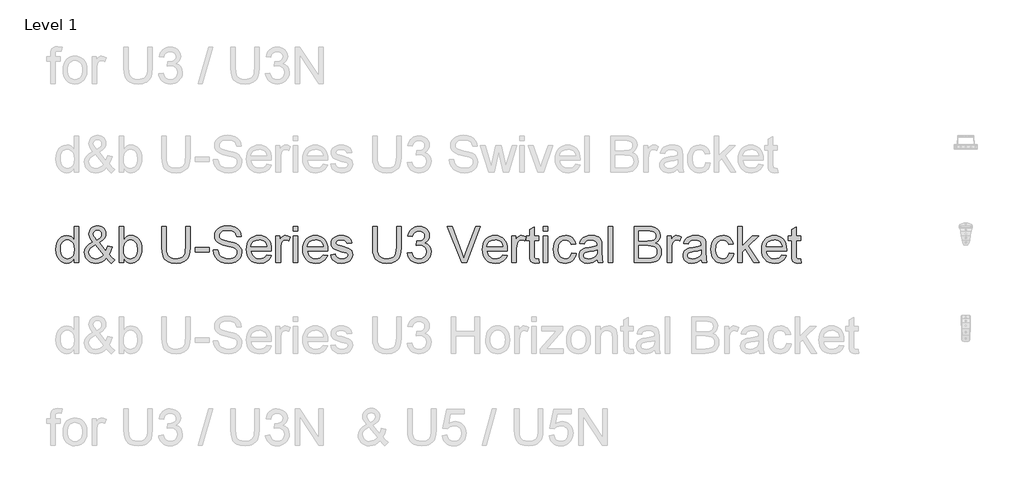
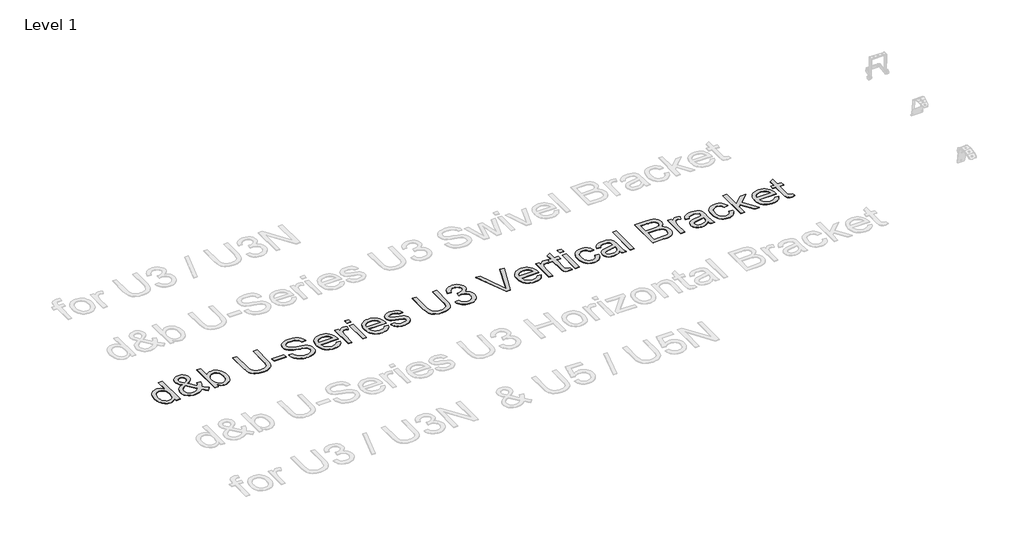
# One storey, part 15 of 29: 1 proxy.
"""IFC4 building model written with IfcOpenShell, lengths in millimetres."""

from ifc_helpers import new_model, si_unit, origin, origin_with_axes, place, context, project, spatial, polyline, outline, extrude, element, save

model = new_model("IFC4")

# Units and contexts
model_context = context("Model", 3, world=origin())
ifc_project = project(units=[si_unit("LENGTHUNIT", "METRE", prefix="MILLI")], contexts=[model_context])

# Site, building, storey
site = spatial("IfcSite", under=ifc_project)
building = spatial("IfcBuilding", under=site)
storey = spatial("IfcBuildingStorey", under=building, Name="Level 1", Elevation=0.0)

# Proxy
placement = place(None, origin())
element("IfcBuildingElementProxy", 1, Name="400mm Arial", ObjectType="400mm Arial", at=placement, inside=storey, context=model_context, shape_type="SweptSolid", body=[
    extrude(outline(polyline([(-20788.4119982, 3164.3636615), (-20788.4119982, 3211.7468625), (-20803.4399777, 3188.2698598), (-20821.6440051, 3171.5005722), (-20843.0240804, 3161.4389996), (-20867.5802036, 3158.0851421), (-20900.051921, 3162.9411844), (-20929.7767862, 3177.5093115), (-20954.9399147, 3200.7717163), (-20973.7264219, 3231.7105921), (-20985.4250694, 3269.0751401), (-20989.3246185, 3311.6145614), (-20985.7316377, 3353.6266853), (-20974.9526952, 3391.5675817), (-20957.0000539, 3423.2790097), (-20931.8859763, 3446.6027282), (-20901.5111863, 3460.950126), (-20867.7764073, 3465.7325919), (-20843.20189, 3462.3112894), (-20821.4723268, 3452.0473817), (-20803.0537016, 3436.3142951), (-20788.4119982, 3416.4854555), (-20788.4119982, 3566.1889021), (-20738.1838431, 3566.1889021), (-20738.1838431, 3164.3636615), (-20788.4119982, 3164.3636615)]), holes=[polyline([(-20939.0964634, 3311.8107652), (-20937.6801177, 3287.4539114), (-20933.4310807, 3266.3773388), (-20926.3493523, 3248.5810472), (-20916.4349325, 3234.0650368), (-20891.7377879, 3214.7512321), (-20877.8625053, 3209.9227809), (-20862.9694159, 3208.3132972), (-20848.0058157, 3209.8492045), (-20834.2133066, 3214.4569265), (-20810.1415614, 3232.8878145), (-20800.6348775, 3246.7968196), (-20793.844389, 3263.9493176), (-20788.4119982, 3307.9847924), (-20793.9424909, 3356.1282828), (-20800.8556067, 3374.663404), (-20810.5339688, 3389.5074425), (-20822.235682, 3400.8811276), (-20835.2188507, 3409.0051883), (-20849.4834751, 3413.8796247), (-20865.0295551, 3415.5044369), (-20880.2169501, 3413.9440041), (-20894.0922327, 3409.2627057), (-20906.6554028, 3401.4605417), (-20917.9064605, 3390.5375121), (-20927.1770868, 3376.2544937), (-20933.7989627, 3358.372363), (-20939.0964634, 3311.8107652)])]), origin_with_axes(), (0.0, 0.0, 1.0), 5.0),
    extrude(outline(polyline([(-20432.4003287, 3214.0032054), (-20457.9313392, 3189.5390527), (-20485.6696416, 3172.0646579), (-20515.664287, 3161.5800211), (-20547.9643262, 3158.0851421), (-20577.2722584, 3160.6725788), (-20603.3918801, 3168.4348889), (-20626.3231911, 3181.3720724), (-20646.0661915, 3199.4841293), (-20658.8991418, 3216.8542908), (-20668.0655348, 3235.2177338), (-20673.5653707, 3254.5744581), (-20675.3986493, 3274.9244638), (-20669.5002746, 3310.118508), (-20651.8051507, 3341.7318341), (-20622.3868538, 3369.7399167), (-20581.3189604, 3394.1182302), (-20603.2324646, 3422.4696693), (-20616.3903773, 3444.9349965), (-20622.975465, 3464.1139112), (-20625.1704942, 3482.6061128), (-20623.4414488, 3500.1602153), (-20618.2543127, 3516.5248327), (-20609.6090858, 3531.699965), (-20597.5057682, 3545.6856122), (-20582.784357, 3557.4026538), (-20566.2848495, 3565.7719692), (-20548.0072457, 3570.7935584), (-20527.9515456, 3572.4674215), (-20508.8032878, 3570.8671348), (-20491.4821772, 3566.0662748), (-20475.9882138, 3558.0648414), (-20462.3213977, 3546.8628346), (-20451.1623105, 3533.4167477), (-20443.1915339, 3518.6830738), (-20438.409068, 3502.6618129), (-20436.8149127, 3485.352965), (-20441.5360649, 3457.3694079), (-20455.6995218, 3431.4950409), (-20479.3052831, 3407.729864), (-20512.353349, 3386.0738773), (-20439.6598668, 3295.5258555), (-20427.2745063, 3321.4002225), (-20417.9793545, 3351.1496132), (-20367.7511994, 3340.2603061), (-20383.2022432, 3293.7354965), (-20403.2640747, 3257.5604336), (-20374.7164319, 3224.2548503), (-20342.6371219, 3196.7372771), (-20380.3082382, 3158.0851421), (-20405.9373505, 3181.5314879), (-20432.4003287, 3214.0032054)]), holes=[polyline([(-20537.7617322, 3417.7607798), (-20511.4949577, 3434.4258341), (-20496.4608468, 3448.908122), (-20489.3975125, 3462.9980024), (-20487.0430678, 3478.4858344), (-20490.1455392, 3496.0338056), (-20499.4529537, 3510.0255842), (-20513.4202068, 3519.1858458), (-20530.5021941, 3522.2392664), (-20547.9520634, 3519.2103713), (-20562.2381476, 3510.123686), (-20571.7662912, 3496.6714677), (-20574.9423391, 3480.5459736), (-20570.6258571, 3462.1518739), (-20557.578309, 3441.6976349), (-20537.7617322, 3417.7607798)]), polyline([(-20466.0492686, 3250.2027937), (-20555.7143735, 3362.1370221), (-20589.9641873, 3340.2848316), (-20610.8966728, 3320.0513218), (-20621.6020389, 3300.7252544), (-20625.1704942, 3281.5953906), (-20620.2899264, 3257.9037901), (-20605.648223, 3233.3292729), (-20594.8692805, 3222.3847835), (-20582.0547244, 3214.5672911), (-20567.2045545, 3209.8767957), (-20550.3187709, 3208.3132972), (-20527.5959264, 3211.2318277), (-20504.1618433, 3219.9874192), (-20482.7388484, 3233.3783238), (-20466.0492686, 3250.2027937)])]), origin_with_axes(), (0.0, 0.0, 1.0), 5.0),
    extrude(outline(polyline([(-20242.1808118, 3164.3636615), (-20292.4089668, 3164.3636615), (-20292.4089668, 3566.1889021), (-20242.1808118, 3566.1889021), (-20242.1808118, 3417.1721686), (-20225.6629102, 3438.4173538), (-20207.011293, 3453.5924861), (-20186.2259603, 3462.6975655), (-20163.306912, 3465.7325919), (-20137.432545, 3462.9980024), (-20112.9806551, 3454.7942339), (-20091.3491937, 3441.6363213), (-20073.9361126, 3424.0392992), (-20060.2876906, 3402.1748459), (-20049.9502065, 3376.2146398), (-20043.4386952, 3347.2378013), (-20041.2681915, 3316.323451), (-20043.5153373, 3280.6511602), (-20050.2567749, 3249.270826), (-20061.4925041, 3222.1824484), (-20077.2225251, 3199.3860274), (-20096.1040685, 3181.3168901), (-20116.7943651, 3168.4103634), (-20139.2934148, 3160.6664474), (-20163.6012176, 3158.0851421), (-20187.274424, 3161.4144742), (-20208.2620918, 3171.4024703), (-20226.5642211, 3188.0491306), (-20242.1808118, 3211.354455), (-20242.1808118, 3164.3636615)]), holes=[polyline([(-20242.1808118, 3313.9690062), (-20238.7472465, 3272.0795097), (-20228.4465506, 3243.7280706), (-20216.2757879, 3228.2341072), (-20202.1307252, 3217.1669905), (-20186.0113625, 3210.5267205), (-20167.9176997, 3208.3132972), (-20152.8958515, 3209.9442407), (-20138.9285984, 3214.8370712), (-20126.0159404, 3222.9917888), (-20114.1578774, 3234.4083934), (-20104.2434577, 3249.0562281), (-20097.1617293, 3266.9046363), (-20092.9126922, 3287.9536178), (-20091.4963465, 3312.2031726), (-20096.9287373, 3358.1638965), (-20103.7192258, 3375.9571224), (-20113.2259097, 3390.2922575), (-20124.6578427, 3401.322586), (-20137.2240785, 3409.201392), (-20150.9246172, 3413.9286757), (-20165.7594586, 3415.5044369), (-20180.7813068, 3413.8734934), (-20194.7485599, 3408.9806628), (-20207.6612179, 3400.8259453), (-20219.5192809, 3389.4093407), (-20229.4337006, 3374.9086587), (-20236.515429, 3357.501709), (-20240.7644661, 3337.1884915), (-20242.1808118, 3313.9690062)])]), origin_with_axes(), (0.0, 0.0, 1.0), 5.0),
    extrude(outline(polyline([(-19557.8221989, 3566.1889021), (-19507.5940438, 3566.1889021), (-19507.5940438, 3334.3741942), (-19511.0030836, 3280.0870744), (-19521.2302031, 3238.2834171), (-19529.4155775, 3221.3301884), (-19540.3355414, 3206.0324288), (-19570.3792376, 3180.4033165), (-19589.5213641, 3170.6391152), (-19611.4348683, 3163.6646857), (-19663.5760097, 3158.0851421), (-19714.576717, 3162.9411844), (-19755.3503048, 3177.5093115), (-19771.9049946, 3188.3097137), (-19785.9090359, 3201.2867511), (-19797.3624287, 3216.4404236), (-19806.2651729, 3233.7707312), (-19817.706303, 3277.3402222), (-19821.520013, 3334.3741942), (-19821.520013, 3566.1889021), (-19771.2918579, 3566.1889021), (-19771.2918579, 3336.1400278), (-19768.8147858, 3291.000907), (-19761.3835695, 3259.5715218), (-19747.9190885, 3237.8051705), (-19727.3422222, 3221.6551509), (-19700.5113621, 3211.6487606), (-19668.2848993, 3208.3132972), (-19640.6017791, 3209.9626348), (-19617.1983529, 3214.9106476), (-19598.0746205, 3223.1573357), (-19583.230582, 3234.702699), (-19572.1144144, 3250.9385577), (-19564.1742947, 3273.2567321), (-19559.4102228, 3301.6572221), (-19557.8221989, 3336.1400278), (-19557.8221989, 3566.1889021)])), origin_with_axes(), (0.0, 0.0, 1.0), 5.0),
    extrude(outline(polyline([(-19451.0873693, 3283.6555298), (-19451.0873693, 3333.8836849), (-19294.1243847, 3333.8836849), (-19294.1243847, 3283.6555298), (-19451.0873693, 3283.6555298)])), origin_with_axes(), (0.0, 0.0, 1.0), 5.0),
    extrude(outline(polyline([(-19250.174749, 3302.4910879), (-19199.946594, 3302.4910879), (-19194.1831094, 3274.6178954), (-19183.7597862, 3252.2138819), (-19167.499402, 3234.4329188), (-19144.2247344, 3220.4288776), (-19115.7751935, 3211.3421923), (-19083.9901891, 3208.3132972), (-19056.006632, 3210.6064283), (-19031.5056911, 3217.4858216), (-19011.6523261, 3228.3751287), (-18997.6114966, 3242.698001), (-18989.2605753, 3259.1423262), (-18986.4769349, 3276.3959918), (-18988.5615995, 3293.2081989), (-18994.8155934, 3307.7395377), (-19007.519785, 3320.137161), (-19028.9550426, 3330.5482214), (-19102.0899832, 3349.7271361), (-19150.0985836, 3362.419065), (-19180.8167302, 3374.4978571), (-19205.8204431, 3391.3959034), (-19223.5400926, 3411.8746678), (-19234.0983058, 3435.4926919), (-19237.6177103, 3461.8085173), (-19233.26444, 3491.2268142), (-19220.2046292, 3518.6585483), (-19198.7816343, 3541.9086904), (-19169.338812, 3558.7822113), (-19133.997615, 3569.0461189), (-19094.8794961, 3572.4674215), (-19052.4994903, 3568.8867034), (-19015.4169852, 3558.1445491), (-18984.956356, 3540.4616879), (-18962.4419779, 3516.0588489), (-18948.1926819, 3486.456611), (-18942.5272992, 3453.1755532), (-18992.7554543, 3453.1755532), (-19001.9770296, 3483.145673), (-19010.3402136, 3495.003736), (-19021.2049952, 3504.7771344), (-19051.2486915, 3517.8737334), (-19092.9174588, 3522.2392664), (-19135.5672448, 3517.9227843), (-19151.8705486, 3512.5271817), (-19164.8261262, 3504.9733381), (-19181.7486979, 3485.9170507), (-19187.3895552, 3463.2800453), (-19183.3919042, 3443.9785033), (-19171.3989511, 3428.4538831), (-19143.047512, 3414.5724691), (-19089.3857917, 3400.3967496), (-19034.0072887, 3386.9322686), (-19000.5055016, 3375.1845702), (-18971.8720197, 3356.9621487), (-18951.8960273, 3334.4722961), (-18940.1605917, 3307.9602669), (-18936.2487798, 3277.671316), (-18940.7492029, 3246.7079147), (-18954.2504721, 3217.5839235), (-18976.2007645, 3192.5188969), (-19006.048257, 3173.7323896), (-19041.941277, 3161.996954), (-19082.0281518, 3158.0851421), (-19131.2385, 3162.3035223), (-19171.7423077, 3174.958663), (-19204.0055586, 3196.0996149), (-19228.4942368, 3225.7754292), (-19244.2150607, 3261.9259666), (-19250.174749, 3302.4910879)])), origin_with_axes(), (0.0, 0.0, 1.0), 5.0),
    extrude(outline(polyline([(-18660.5825381, 3252.2629329), (-18611.3354017, 3245.9844135), (-18618.8861796, 3226.2598072), (-18629.0795766, 3208.8773829), (-18641.9155925, 3193.8371407), (-18657.3942275, 3181.1390805), (-18675.3560659, 3171.0529824), (-18695.6416922, 3163.8486267), (-18743.1843087, 3158.0851421), (-18774.3500451, 3160.5714113), (-18802.1190044, 3168.0302187), (-18826.4911866, 3180.4615645), (-18847.4665916, 3197.8654485), (-18864.3339811, 3219.7574929), (-18876.3821165, 3245.6533197), (-18883.6109977, 3275.5529288), (-18886.0206247, 3309.4563204), (-18883.5864722, 3344.5093432), (-18876.2840146, 3375.4052994), (-18864.1132519, 3402.1441891), (-18847.0741842, 3424.7260122), (-18826.1539614, 3442.6663908), (-18802.3397336, 3455.480947), (-18775.6315007, 3463.1696807), (-18746.0292628, 3465.7325919), (-18717.3804525, 3463.1758121), (-18691.472363, 3455.5054725), (-18668.3049943, 3442.7215731), (-18647.8783465, 3424.8241141), (-18631.2040951, 3402.2913419), (-18619.2939155, 3375.6015031), (-18612.1478077, 3344.7545978), (-18609.7657718, 3309.750626), (-18610.0600774, 3296.2125686), (-18835.7924697, 3296.2125686), (-18832.8831362, 3276.1691312), (-18827.0981918, 3258.6150287), (-18818.4376365, 3243.550261), (-18806.9014703, 3230.9748281), (-18793.1273553, 3221.0604083), (-18777.7529536, 3213.9786799), (-18742.2032901, 3208.3132972), (-18715.4705318, 3210.9375221), (-18692.9561537, 3218.8101968), (-18674.6601558, 3232.4218306), (-18660.5825381, 3252.2629329)]), holes=[polyline([(-18835.7924697, 3346.4407236), (-18659.9939269, 3346.4407236), (-18666.7874811, 3372.9772782), (-18680.1048093, 3391.9599892), (-18693.8022823, 3402.260685), (-18709.3882161, 3409.6183249), (-18726.8626109, 3414.0329089), (-18746.2254666, 3415.5044369), (-18780.0828729, 3410.8078101), (-18808.0786927, 3396.7179296), (-18827.5396502, 3374.7553745), (-18835.7924697, 3346.4407236)])]), origin_with_axes(), (0.0, 0.0, 1.0), 5.0),
    extrude(outline(polyline([(-18559.5376168, 3164.3636615), (-18559.5376168, 3459.4540726), (-18515.5879811, 3459.4540726), (-18515.5879811, 3415.7987425), (-18499.3521223, 3441.1090237), (-18484.3915879, 3456.0205073), (-18469.3820025, 3463.3045708), (-18452.998991, 3465.7325919), (-18427.9830153, 3461.8575683), (-18402.5746321, 3450.2324972), (-18419.3500511, 3405.203741), (-18437.0083869, 3412.9292629), (-18454.6667227, 3415.5044369), (-18469.6640453, 3413.0273648), (-18483.0672127, 3405.5961485), (-18493.8952061, 3393.7748737), (-18501.1670069, 3378.1276262), (-18507.273848, 3350.0704927), (-18509.3094617, 3319.4627107), (-18509.3094617, 3164.3636615), (-18559.5376168, 3164.3636615)])), origin_with_axes(), (0.0, 0.0, 1.0), 5.0),
    extrude(outline(polyline([(-18371.1820352, 3515.960747), (-18371.1820352, 3566.1889021), (-18320.9538802, 3566.1889021), (-18320.9538802, 3515.960747), (-18371.1820352, 3515.960747)])), origin_with_axes(), (0.0, 0.0, 1.0), 5.0),
    extrude(outline(polyline([(-18371.1820352, 3164.3636615), (-18371.1820352, 3459.4540726), (-18320.9538802, 3459.4540726), (-18320.9538802, 3164.3636615), (-18371.1820352, 3164.3636615)])), origin_with_axes(), (0.0, 0.0, 1.0), 5.0),
    extrude(outline(polyline([(-18039.009119, 3252.2629329), (-17989.7619826, 3245.9844135), (-17997.3127606, 3226.2598072), (-18007.5061575, 3208.8773829), (-18020.3421735, 3193.8371407), (-18035.8208084, 3181.1390805), (-18053.7826468, 3171.0529824), (-18074.0682732, 3163.8486267), (-18121.6108897, 3158.0851421), (-18152.7766261, 3160.5714113), (-18180.5455853, 3168.0302187), (-18204.9177675, 3180.4615645), (-18225.8931726, 3197.8654485), (-18242.7605621, 3219.7574929), (-18254.8086974, 3245.6533197), (-18262.0375786, 3275.5529288), (-18264.4472057, 3309.4563204), (-18262.0130532, 3344.5093432), (-18254.7105956, 3375.4052994), (-18242.5398329, 3402.1441891), (-18225.5007651, 3424.7260122), (-18204.5805423, 3442.6663908), (-18180.7663145, 3455.480947), (-18154.0580817, 3463.1696807), (-18124.4558438, 3465.7325919), (-18095.8070334, 3463.1758121), (-18069.8989439, 3455.5054725), (-18046.7315753, 3442.7215731), (-18026.3049275, 3424.8241141), (-18009.630676, 3402.2913419), (-17997.7204965, 3375.6015031), (-17990.5743887, 3344.7545978), (-17988.1923528, 3309.750626), (-17988.4866584, 3296.2125686), (-18214.2190506, 3296.2125686), (-18211.3097172, 3276.1691312), (-18205.5247728, 3258.6150287), (-18196.8642175, 3243.550261), (-18185.3280513, 3230.9748281), (-18171.5539362, 3221.0604083), (-18156.1795345, 3213.9786799), (-18120.629871, 3208.3132972), (-18093.8971127, 3210.9375221), (-18071.3827346, 3218.8101968), (-18053.0867367, 3232.4218306), (-18039.009119, 3252.2629329)]), holes=[polyline([(-18214.2190506, 3346.4407236), (-18038.4205079, 3346.4407236), (-18045.214062, 3372.9772782), (-18058.5313903, 3391.9599892), (-18072.2288632, 3402.260685), (-18087.8147971, 3409.6183249), (-18105.2891918, 3414.0329089), (-18124.6520475, 3415.5044369), (-18158.5094538, 3410.8078101), (-18186.5052736, 3396.7179296), (-18205.9662312, 3374.7553745), (-18214.2190506, 3346.4407236)])]), origin_with_axes(), (0.0, 0.0, 1.0), 5.0),
    extrude(outline(polyline([(-17956.7997559, 3252.2629329), (-17906.5716008, 3258.5414523), (-17898.6498752, 3237.0571437), (-17883.3214587, 3221.2627434), (-17860.4882495, 3211.5506587), (-17830.0521458, 3208.3132972), (-17799.983924, 3211.2808786), (-17778.8429721, 3220.1836229), (-17766.3349842, 3233.0840182), (-17762.1656549, 3248.0445527), (-17766.3595097, 3260.8468461), (-17778.9410739, 3270.6079817), (-17830.640757, 3284.930854), (-17906.2772952, 3309.5053713), (-17925.4194217, 3321.8539436), (-17939.2885729, 3338.2001669), (-17947.7130706, 3357.501709), (-17950.5212365, 3378.7162373), (-17948.2648936, 3398.1771949), (-17941.4958649, 3416.142099), (-17930.827287, 3431.8997111), (-17916.8722966, 3444.7387927), (-17884.9401395, 3459.6012254), (-17864.0567049, 3464.1997503), (-17841.7262678, 3465.7325919), (-17809.0338211, 3463.2677826), (-17780.6088056, 3455.8733545), (-17757.751071, 3444.2728089), (-17741.7604669, 3429.1896471), (-17731.1654655, 3409.5079603), (-17724.4945386, 3384.1118399), (-17774.7226937, 3377.8333206), (-17781.0625268, 3393.6399836), (-17793.6073028, 3405.5470975), (-17812.4796492, 3413.015102), (-17837.8021932, 3415.5044369), (-17866.6441416, 3413.1254666), (-17885.8721072, 3405.9885559), (-17896.6878378, 3395.6878601), (-17900.2930814, 3383.8175343), (-17894.3088676, 3369.2003564), (-17875.5714113, 3358.1148456), (-17832.3084887, 3347.4217423), (-17758.5849369, 3323.7791927), (-17739.1117166, 3312.4729527), (-17724.3473858, 3296.9973835), (-17715.0399714, 3277.303434), (-17711.9374999, 3253.3420534), (-17715.5795316, 3228.5713324), (-17726.5056269, 3205.2721394), (-17744.2988527, 3185.2716215), (-17768.5422762, 3170.3969262), (-17797.825683, 3161.1630881), (-17830.7388588, 3158.0851421), (-17857.7720541, 3159.5689328), (-17881.3839468, 3164.020305), (-17901.574537, 3171.4392585), (-17918.3438246, 3181.8257935), (-17932.0412976, 3195.130859), (-17943.0164438, 3211.3054041), (-17951.2692632, 3230.3494287), (-17956.7997559, 3252.2629329)])), origin_with_axes(), (0.0, 0.0, 1.0), 5.0),
    extrude(outline(polyline([(-17228.4915073, 3566.1889021), (-17178.2633522, 3566.1889021), (-17178.2633522, 3334.3741942), (-17181.672392, 3280.0870744), (-17191.8995115, 3238.2834171), (-17200.0848859, 3221.3301884), (-17211.0048498, 3206.0324288), (-17241.048546, 3180.4033165), (-17260.1906725, 3170.6391152), (-17282.1041767, 3163.6646857), (-17334.2453182, 3158.0851421), (-17385.2460254, 3162.9411844), (-17426.0196132, 3177.5093115), (-17442.574303, 3188.3097137), (-17456.5783443, 3201.2867511), (-17468.0317371, 3216.4404236), (-17476.9344814, 3233.7707312), (-17488.3756114, 3277.3402222), (-17492.1893214, 3334.3741942), (-17492.1893214, 3566.1889021), (-17441.9611663, 3566.1889021), (-17441.9611663, 3336.1400278), (-17439.4840942, 3291.000907), (-17432.0528779, 3259.5715218), (-17418.5883969, 3237.8051705), (-17398.0115307, 3221.6551509), (-17371.1806705, 3211.6487606), (-17338.9542077, 3208.3132972), (-17311.2710876, 3209.9626348), (-17287.8676613, 3214.9106476), (-17268.7439289, 3223.1573357), (-17253.8998904, 3234.702699), (-17242.7837228, 3250.9385577), (-17234.8436031, 3273.2567321), (-17230.0795312, 3301.6572221), (-17228.4915073, 3336.1400278), (-17228.4915073, 3566.1889021)])), origin_with_axes(), (0.0, 0.0, 1.0), 5.0),
    extrude(outline(polyline([(-17109.199639, 3271.098491), (-17058.9714839, 3277.3770104), (-17047.7265576, 3245.8127352), (-17031.2577069, 3224.500105), (-17008.7555916, 3212.3599991), (-16979.4108711, 3208.3132972), (-16944.9771163, 3213.880578), (-16930.7032949, 3220.8396791), (-16918.3915108, 3230.5824206), (-16901.3953626, 3255.5002944), (-16895.7299799, 3285.715669), (-16901.3463117, 3314.3982019), (-16918.1953071, 3337.6606067), (-16943.7017921, 3353.0748623), (-16975.2905927, 3358.2129475), (-17010.5091624, 3352.719243), (-17004.9173561, 3402.9473981), (-16996.8730031, 3402.3587869), (-16966.7802559, 3405.9640305), (-16939.8758193, 3416.7797611), (-16928.8025713, 3424.9590041), (-16920.8931084, 3435.075759), (-16916.1474306, 3447.1300257), (-16914.5655381, 3461.1218043), (-16919.1518003, 3482.8145792), (-16932.9105869, 3500.4116014), (-16953.9043861, 3512.0734606), (-16980.195686, 3515.960747), (-17006.5360369, 3512.0366724), (-17028.0693963, 3500.2644486), (-17043.7902202, 3480.6440755), (-17052.6929645, 3453.1755532), (-17102.9211196, 3459.4540726), (-17096.9675626, 3483.4338473), (-17088.1322634, 3504.5564052), (-17076.4152218, 3522.8217462), (-17061.816438, 3538.2298705), (-17044.7957643, 3550.4619468), (-17025.8130534, 3559.1991442), (-17004.8683051, 3564.4414626), (-16981.9615196, 3566.1889021), (-16950.3849817, 3562.7430741), (-16921.3836177, 3552.40559), (-16896.9317278, 3536.0961549), (-16879.0036119, 3514.7344737), (-16868.0039402, 3490.1231682), (-16864.337383, 3464.0648602), (-16867.8199992, 3439.7846485), (-16878.2678479, 3417.7607798), (-16895.5337762, 3398.998798), (-16919.4706313, 3384.5042474), (-16888.0289835, 3371.8000558), (-16864.7297904, 3350.1685945), (-16850.3088162, 3320.7870858), (-16845.5018248, 3284.8327522), (-16847.9053205, 3259.3507926), (-16855.1158076, 3235.8799214), (-16867.1332861, 3214.4201383), (-16883.9577561, 3194.9714435), (-16904.4549146, 3178.8336866), (-16927.4904588, 3167.3067175), (-16953.0643889, 3160.3905359), (-16981.1767046, 3158.0851421), (-17006.5850878, 3160.0533108), (-17029.737128, 3165.9578168), (-17050.6328253, 3175.7986602), (-17069.2721798, 3189.5758409), (-17084.9010332, 3206.4800186), (-17096.7652275, 3225.7018528), (-17104.8647628, 3247.2413436), (-17109.199639, 3271.098491)])), origin_with_axes(), (0.0, 0.0, 1.0), 5.0),
    extrude(outline(polyline([(-16507.1484911, 3164.3636615), (-16666.9564298, 3566.1889021), (-16613.1966076, 3566.1889021), (-16506.1674725, 3276.6902974), (-16484.4869602, 3211.4525569), (-16463.1007536, 3276.6902974), (-16355.7773128, 3566.1889021), (-16302.1155925, 3566.1889021), (-16455.3507062, 3164.3636615), (-16507.1484911, 3164.3636615)])), origin_with_axes(), (0.0, 0.0, 1.0), 5.0),
    extrude(outline(polyline([(-16054.9969936, 3252.2629329), (-16005.7498572, 3245.9844135), (-16013.3006351, 3226.2598072), (-16023.4940321, 3208.8773829), (-16036.330048, 3193.8371407), (-16051.808683, 3181.1390805), (-16069.7705214, 3171.0529824), (-16090.0561477, 3163.8486267), (-16137.5987642, 3158.0851421), (-16168.7645006, 3160.5714113), (-16196.5334599, 3168.0302187), (-16220.9056421, 3180.4615645), (-16241.8810471, 3197.8654485), (-16258.7484366, 3219.7574929), (-16270.796572, 3245.6533197), (-16278.0254532, 3275.5529288), (-16280.4350802, 3309.4563204), (-16278.0009277, 3344.5093432), (-16270.6984701, 3375.4052994), (-16258.5277074, 3402.1441891), (-16241.4886397, 3424.7260122), (-16220.5684169, 3442.6663908), (-16196.7541891, 3455.480947), (-16170.0459562, 3463.1696807), (-16140.4437183, 3465.7325919), (-16111.794908, 3463.1758121), (-16085.8868185, 3455.5054725), (-16062.7194498, 3442.7215731), (-16042.292802, 3424.8241141), (-16025.6185506, 3402.2913419), (-16013.708371, 3375.6015031), (-16006.5622632, 3344.7545978), (-16004.1802273, 3309.750626), (-16004.4745329, 3296.2125686), (-16230.2069252, 3296.2125686), (-16227.2975917, 3276.1691312), (-16221.5126473, 3258.6150287), (-16212.852092, 3243.550261), (-16201.3159258, 3230.9748281), (-16187.5418108, 3221.0604083), (-16172.1674091, 3213.9786799), (-16136.6177456, 3208.3132972), (-16109.8849873, 3210.9375221), (-16087.3706092, 3218.8101968), (-16069.0746113, 3232.4218306), (-16054.9969936, 3252.2629329)]), holes=[polyline([(-16230.2069252, 3346.4407236), (-16054.4083824, 3346.4407236), (-16061.2019366, 3372.9772782), (-16074.5192648, 3391.9599892), (-16088.2167378, 3402.260685), (-16103.8026716, 3409.6183249), (-16121.2770664, 3414.0329089), (-16140.6399221, 3415.5044369), (-16174.4973284, 3410.8078101), (-16202.4931482, 3396.7179296), (-16221.9541057, 3374.7553745), (-16230.2069252, 3346.4407236)])]), origin_with_axes(), (0.0, 0.0, 1.0), 5.0),
    extrude(outline(polyline([(-15953.9520723, 3164.3636615), (-15953.9520723, 3459.4540726), (-15910.0024366, 3459.4540726), (-15910.0024366, 3415.7987425), (-15893.7665778, 3441.1090237), (-15878.8060434, 3456.0205073), (-15863.796458, 3463.3045708), (-15847.4134464, 3465.7325919), (-15822.3974708, 3461.8575683), (-15796.9890876, 3450.2324972), (-15813.7645066, 3405.203741), (-15831.4228424, 3412.9292629), (-15849.0811782, 3415.5044369), (-15864.0785008, 3413.0273648), (-15877.4816682, 3405.5961485), (-15888.3096616, 3393.7748737), (-15895.5814623, 3378.1276262), (-15901.6883035, 3350.0704927), (-15903.7239172, 3319.4627107), (-15903.7239172, 3164.3636615), (-15953.9520723, 3164.3636615)])), origin_with_axes(), (0.0, 0.0, 1.0), 5.0),
    extrude(outline(polyline([(-15658.8616612, 3206.253158), (-15652.5831418, 3162.8921335), (-15690.1561562, 3158.0851421), (-15714.2646897, 3160.1698067), (-15732.2418565, 3166.4238007), (-15744.9460481, 3176.0623089), (-15753.2356557, 3188.3005166), (-15757.7973924, 3209.3188413), (-15759.3179713, 3245.2977004), (-15759.3179713, 3409.2259175), (-15796.9890876, 3409.2259175), (-15796.9890876, 3459.4540726), (-15759.3179713, 3459.4540726), (-15759.3179713, 3531.1665361), (-15709.0898163, 3560.6951976), (-15709.0898163, 3459.4540726), (-15658.8616612, 3459.4540726), (-15658.8616612, 3409.2259175), (-15709.0898163, 3409.2259175), (-15709.0898163, 3246.7692284), (-15706.4410659, 3220.8703359), (-15697.8571527, 3211.6978115), (-15680.7383772, 3208.3132972), (-15658.8616612, 3206.253158)])), origin_with_axes(), (0.0, 0.0, 1.0), 5.0),
    extrude(outline(polyline([(-15608.6335061, 3164.3636615), (-15608.6335061, 3459.4540726), (-15558.405351, 3459.4540726), (-15558.405351, 3164.3636615), (-15608.6335061, 3164.3636615)])), origin_with_axes(), (0.0, 0.0, 1.0), 5.0),
    extrude(outline(polyline([(-15608.6335061, 3515.960747), (-15608.6335061, 3566.1889021), (-15558.405351, 3566.1889021), (-15558.405351, 3515.960747), (-15608.6335061, 3515.960747)])), origin_with_axes(), (0.0, 0.0, 1.0), 5.0),
    extrude(outline(polyline([(-15294.7075369, 3271.098491), (-15244.4793818, 3264.8199716), (-15249.9424294, 3241.1191741), (-15258.4834231, 3220.1468347), (-15270.1023628, 3201.9029534), (-15284.7992485, 3186.3875303), (-15301.9548122, 3174.0052354), (-15320.9497859, 3165.1607391), (-15341.7841695, 3159.8540414), (-15364.4579632, 3158.0851421), (-15392.628527, 3160.5530172), (-15417.8866916, 3167.9566423), (-15440.2324571, 3180.2960176), (-15459.6658235, 3197.5711429), (-15475.3958445, 3219.457056), (-15486.6315738, 3245.6287942), (-15493.3730113, 3276.0863577), (-15495.6201572, 3310.8297465), (-15491.7819217, 3355.5274089), (-15480.2672153, 3394.265383), (-15460.8920968, 3425.5476153), (-15433.4726255, 3447.8780524), (-15400.6698142, 3461.2689571), (-15365.1446762, 3465.7325919), (-15342.8602244, 3464.1997503), (-15322.7033567, 3459.6012254), (-15304.6740733, 3451.9370171), (-15288.772374, 3441.2071256), (-15275.2680391, 3427.6568054), (-15264.4308487, 3411.5313113), (-15256.2608027, 3392.8306432), (-15250.7579012, 3371.5548012), (-15300.9860563, 3365.2762818), (-15310.097267, 3387.189786), (-15324.2852493, 3402.8983472), (-15342.7651882, 3412.3529144), (-15364.7522688, 3415.5044369), (-15381.8189277, 3413.9532011), (-15397.2117235, 3409.2994939), (-15410.9306562, 3401.5433151), (-15422.9757259, 3390.6846649), (-15432.7828467, 3376.4721572), (-15439.7879331, 3358.6544059), (-15443.9909849, 3337.231411), (-15445.3920021, 3312.2031726), (-15439.9105604, 3265.12654), (-15433.0587582, 3247.189227), (-15423.4662352, 3232.9859163), (-15411.6602888, 3222.1916454), (-15398.1682167, 3214.481452), (-15382.9900187, 3209.8553359), (-15366.1256949, 3208.3132972), (-15340.1164378, 3212.1637954), (-15318.7915448, 3223.71529), (-15303.2791874, 3243.2620867), (-15294.7075369, 3271.098491)])), origin_with_axes(), (0.0, 0.0, 1.0), 5.0),
    extrude(outline(polyline([(-15012.1741646, 3202.0347778), (-15036.1723334, 3181.4579115), (-15060.8817408, 3167.9934305), (-15086.8664724, 3160.5622142), (-15114.6906139, 3158.0851421), (-15137.0547735, 3159.5750642), (-15156.6659496, 3164.0448304), (-15173.524142, 3171.4944408), (-15187.6293508, 3181.9238954), (-15198.7669782, 3194.6710065), (-15206.7224264, 3209.0735866), (-15211.4956953, 3225.1316357), (-15213.0867849, 3242.8451538), (-15210.6832892, 3263.6672747), (-15203.4728021, 3282.5764093), (-15192.3505031, 3298.7632171), (-15178.2115718, 3311.4183577), (-15161.5955683, 3320.9832896), (-15143.042053, 3327.8994711), (-15099.5829267, 3335.4533147), (-15048.2266001, 3343.3995658), (-15012.4684702, 3352.719243), (-15012.1741646, 3363.9028557), (-15015.6322554, 3386.3191319), (-15026.0065276, 3400.9853608), (-15049.2076188, 3411.8746678), (-15081.5321834, 3415.5044369), (-15111.4532524, 3413.0886784), (-15132.3489497, 3405.8414031), (-15146.5982456, 3392.4382358), (-15156.5801104, 3371.5548012), (-15206.8082655, 3377.8333206), (-15198.0894622, 3405.3018429), (-15185.0787023, 3426.8842532), (-15166.5619752, 3443.3898921), (-15141.3252704, 3455.6280998), (-15110.459971, 3463.2064689), (-15075.0574603, 3465.7325919), (-15041.1019522, 3463.5007745), (-15014.1852528, 3456.8053222), (-14993.8904294, 3446.7376183), (-14979.800549, 3434.389046), (-14970.4563463, 3419.1219432), (-14964.3985562, 3400.2986477), (-14961.9460095, 3356.349012), (-14961.9460095, 3293.8581238), (-14959.395361, 3206.5965145), (-14949.3889708, 3164.3636615), (-14999.6171258, 3164.3636615), (-15007.6614788, 3181.8257935), (-15012.1741646, 3202.0347778)]), holes=[polyline([(-15012.1741646, 3302.4910879), (-15045.9212063, 3294.1279039), (-15093.2063054, 3287.0890951), (-15136.4201771, 3278.9466403), (-15147.6651034, 3273.3793594), (-15155.9914992, 3265.7028884), (-15161.1418472, 3256.5058385), (-15162.8586298, 3246.3768209), (-15159.1184962, 3231.4408119), (-15147.8980954, 3219.2026042), (-15129.4426819, 3211.0356239), (-15103.9975106, 3208.3132972), (-15077.0194976, 3211.3176668), (-15053.1807443, 3220.3307757), (-15033.8546768, 3233.6113157), (-15020.4147213, 3249.4179788), (-15014.455033, 3265.7028884), (-15012.4684702, 3288.2663175), (-15012.1741646, 3302.4910879)])]), origin_with_axes(), (0.0, 0.0, 1.0), 5.0),
    extrude(outline(polyline([(-14892.8822963, 3164.3636615), (-14892.8822963, 3566.1889021), (-14842.6541412, 3566.1889021), (-14842.6541412, 3164.3636615), (-14892.8822963, 3164.3636615)])), origin_with_axes(), (0.0, 0.0, 1.0), 5.0),
    extrude(outline(polyline([(-14604.0704046, 3164.3636615), (-14604.0704046, 3566.1889021), (-14450.737189, 3566.1889021), (-14408.5656496, 3563.2335834), (-14375.6402111, 3554.3676273), (-14350.4035062, 3539.3703046), (-14331.2981679, 3518.0208862), (-14319.2684267, 3492.9068086), (-14315.2585129, 3466.6155087), (-14318.6307646, 3442.4211362), (-14328.7475194, 3419.6737661), (-14345.6823539, 3399.7713502), (-14369.5088445, 3384.1118399), (-14341.0470408, 3369.2494073), (-14320.0164534, 3346.6369274), (-14307.030219, 3317.7704535), (-14302.7014742, 3284.1460391), (-14305.6567929, 3256.1256938), (-14314.5227489, 3230.1409622), (-14327.754238, 3208.0435171), (-14343.8061558, 3191.685031), (-14363.463317, 3179.8392308), (-14387.5105368, 3171.279843), (-14416.7326299, 3166.0927069), (-14451.9144114, 3164.3636615), (-14604.0704046, 3164.3636615)]), holes=[polyline([(-14553.8422495, 3214.5918166), (-14450.8352909, 3214.5918166), (-14413.556582, 3216.5538539), (-14382.0168323, 3227.4922119), (-14370.4408122, 3236.9222537), (-14361.121135, 3249.8103862), (-14354.9775057, 3265.5802611), (-14352.9296292, 3283.6555298), (-14355.3331249, 3304.649329), (-14362.543612, 3322.7000722), (-14375.137439, 3336.8144781), (-14393.6909543, 3345.9992652), (-14419.9699915, 3351.0392486), (-14455.7403842, 3352.719243), (-14553.8422495, 3352.719243), (-14553.8422495, 3214.5918166)]), polyline([(-14553.8422495, 3402.9473981), (-14462.1170054, 3402.9473981), (-14408.5533869, 3407.2638802), (-14389.8036679, 3414.7073592), (-14376.3269241, 3425.8541837), (-14368.196732, 3440.5326753), (-14365.486668, 3458.5711558), (-14368.012791, 3476.0823387), (-14375.5911601, 3491.3371788), (-14387.8784188, 3503.2442927), (-14404.5312104, 3510.7122972), (-14430.0867464, 3514.6486346), (-14469.0822379, 3515.960747), (-14553.8422495, 3515.960747), (-14553.8422495, 3402.9473981)])]), origin_with_axes(), (0.0, 0.0, 1.0), 5.0),
    extrude(outline(polyline([(-14239.9162803, 3164.3636615), (-14239.9162803, 3459.4540726), (-14195.9666446, 3459.4540726), (-14195.9666446, 3415.7987425), (-14179.7307859, 3441.1090237), (-14164.7702514, 3456.0205073), (-14149.760666, 3463.3045708), (-14133.3776545, 3465.7325919), (-14108.3616788, 3461.8575683), (-14082.9532957, 3450.2324972), (-14099.7287147, 3405.203741), (-14117.3870505, 3412.9292629), (-14135.0453862, 3415.5044369), (-14150.0427089, 3413.0273648), (-14163.4458763, 3405.5961485), (-14174.2738697, 3393.7748737), (-14181.5456704, 3378.1276262), (-14187.6525115, 3350.0704927), (-14189.6881252, 3319.4627107), (-14189.6881252, 3164.3636615), (-14239.9162803, 3164.3636615)])), origin_with_axes(), (0.0, 0.0, 1.0), 5.0),
    extrude(outline(polyline([(-13863.2051173, 3202.0347778), (-13887.2032861, 3181.4579115), (-13911.9126934, 3167.9934305), (-13937.897425, 3160.5622142), (-13965.7215666, 3158.0851421), (-13988.0857262, 3159.5750642), (-14007.6969022, 3164.0448304), (-14024.5550947, 3171.4944408), (-14038.6603035, 3181.9238954), (-14049.7979309, 3194.6710065), (-14057.753379, 3209.0735866), (-14062.5266479, 3225.1316357), (-14064.1177376, 3242.8451538), (-14061.7142419, 3263.6672747), (-14054.5037548, 3282.5764093), (-14043.3814558, 3298.7632171), (-14029.2425244, 3311.4183577), (-14012.626521, 3320.9832896), (-13994.0730057, 3327.8994711), (-13950.6138793, 3335.4533147), (-13899.2575528, 3343.3995658), (-13863.4994229, 3352.719243), (-13863.2051173, 3363.9028557), (-13866.663208, 3386.3191319), (-13877.0374803, 3400.9853608), (-13900.2385714, 3411.8746678), (-13932.5631361, 3415.5044369), (-13962.484205, 3413.0886784), (-13983.3799024, 3405.8414031), (-13997.6291983, 3392.4382358), (-14007.6110631, 3371.5548012), (-14057.8392182, 3377.8333206), (-14049.1204149, 3405.3018429), (-14036.109655, 3426.8842532), (-14017.5929279, 3443.3898921), (-13992.356223, 3455.6280998), (-13961.4909236, 3463.2064689), (-13926.088413, 3465.7325919), (-13892.1329048, 3463.5007745), (-13865.2162055, 3456.8053222), (-13844.9213821, 3446.7376183), (-13830.8315017, 3434.389046), (-13821.487299, 3419.1219432), (-13815.4295088, 3400.2986477), (-13812.9769622, 3356.349012), (-13812.9769622, 3293.8581238), (-13810.4263137, 3206.5965145), (-13800.4199234, 3164.3636615), (-13850.6480785, 3164.3636615), (-13858.6924315, 3181.8257935), (-13863.2051173, 3202.0347778)]), holes=[polyline([(-13863.2051173, 3302.4910879), (-13896.952159, 3294.1279039), (-13944.2372581, 3287.0890951), (-13987.4511298, 3278.9466403), (-13998.6960561, 3273.3793594), (-14007.0224519, 3265.7028884), (-14012.1727998, 3256.5058385), (-14013.8895825, 3246.3768209), (-14010.1494489, 3231.4408119), (-13998.929048, 3219.2026042), (-13980.4736346, 3211.0356239), (-13955.0284633, 3208.3132972), (-13928.0504503, 3211.3176668), (-13904.211697, 3220.3307757), (-13884.8856295, 3233.6113157), (-13871.445674, 3249.4179788), (-13865.4859856, 3265.7028884), (-13863.4994229, 3288.2663175), (-13863.2051173, 3302.4910879)])]), origin_with_axes(), (0.0, 0.0, 1.0), 5.0),
    extrude(outline(polyline([(-13555.5576674, 3271.098491), (-13505.3295124, 3264.8199716), (-13510.79256, 3241.1191741), (-13519.3335536, 3220.1468347), (-13530.9524933, 3201.9029534), (-13545.649379, 3186.3875303), (-13562.8049427, 3174.0052354), (-13581.7999164, 3165.1607391), (-13602.6343001, 3159.8540414), (-13625.3080937, 3158.0851421), (-13653.4786575, 3160.5530172), (-13678.7368221, 3167.9566423), (-13701.0825877, 3180.2960176), (-13720.5159541, 3197.5711429), (-13736.245975, 3219.457056), (-13747.4817043, 3245.6287942), (-13754.2231419, 3276.0863577), (-13756.4702877, 3310.8297465), (-13752.6320522, 3355.5274089), (-13741.1173458, 3394.265383), (-13721.7422274, 3425.5476153), (-13694.322756, 3447.8780524), (-13661.5199448, 3461.2689571), (-13625.9948068, 3465.7325919), (-13603.7103549, 3464.1997503), (-13583.5534873, 3459.6012254), (-13565.5242038, 3451.9370171), (-13549.6225046, 3441.2071256), (-13536.1181697, 3427.6568054), (-13525.2809792, 3411.5313113), (-13517.1109332, 3392.8306432), (-13511.6080317, 3371.5548012), (-13561.8361868, 3365.2762818), (-13570.9473976, 3387.189786), (-13585.1353798, 3402.8983472), (-13603.6153187, 3412.3529144), (-13625.6023993, 3415.5044369), (-13642.6690582, 3413.9532011), (-13658.061854, 3409.2994939), (-13671.7807868, 3401.5433151), (-13683.8258564, 3390.6846649), (-13693.6329773, 3376.4721572), (-13700.6380636, 3358.6544059), (-13704.8411154, 3337.231411), (-13706.2421327, 3312.2031726), (-13700.7606909, 3265.12654), (-13693.9088888, 3247.189227), (-13684.3163657, 3232.9859163), (-13672.5104194, 3222.1916454), (-13659.0183472, 3214.481452), (-13643.8401492, 3209.8553359), (-13626.9758254, 3208.3132972), (-13600.9665684, 3212.1637954), (-13579.6416754, 3223.71529), (-13564.1293179, 3243.2620867), (-13555.5576674, 3271.098491)])), origin_with_axes(), (0.0, 0.0, 1.0), 5.0),
    extrude(outline(polyline([(-13461.3798767, 3164.3636615), (-13461.3798767, 3566.1889021), (-13411.1517216, 3566.1889021), (-13411.1517216, 3350.2666964), (-13298.5307801, 3459.4540726), (-13229.0746594, 3459.4540726), (-13343.1671289, 3348.8932703), (-13222.7961401, 3164.3636615), (-13281.4610556, 3164.3636615), (-13379.1705135, 3313.9690062), (-13411.1517216, 3282.8707149), (-13411.1517216, 3164.3636615), (-13461.3798767, 3164.3636615)])), origin_with_axes(), (0.0, 0.0, 1.0), 5.0),
    extrude(outline(polyline([(-12972.2439759, 3252.2629329), (-12922.9968395, 3245.9844135), (-12930.5476174, 3226.2598072), (-12940.7410144, 3208.8773829), (-12953.5770303, 3193.8371407), (-12969.0556653, 3181.1390805), (-12987.0175037, 3171.0529824), (-13007.30313, 3163.8486267), (-13054.8457465, 3158.0851421), (-13086.0114829, 3160.5714113), (-13113.7804422, 3168.0302187), (-13138.1526243, 3180.4615645), (-13159.1280294, 3197.8654485), (-13175.9954189, 3219.7574929), (-13188.0435542, 3245.6533197), (-13195.2724355, 3275.5529288), (-13197.6820625, 3309.4563204), (-13195.24791, 3344.5093432), (-13187.9454524, 3375.4052994), (-13175.7746897, 3402.1441891), (-13158.735622, 3424.7260122), (-13137.8153992, 3442.6663908), (-13114.0011714, 3455.480947), (-13087.2929385, 3463.1696807), (-13057.6907006, 3465.7325919), (-13029.0418902, 3463.1758121), (-13003.1338007, 3455.5054725), (-12979.9664321, 3442.7215731), (-12959.5397843, 3424.8241141), (-12942.8655329, 3402.2913419), (-12930.9553533, 3375.6015031), (-12923.8092455, 3344.7545978), (-12921.4272096, 3309.750626), (-12921.7215152, 3296.2125686), (-13147.4539074, 3296.2125686), (-13144.544574, 3276.1691312), (-13138.7596296, 3258.6150287), (-13130.0990743, 3243.550261), (-13118.5629081, 3230.9748281), (-13104.7887931, 3221.0604083), (-13089.4143913, 3213.9786799), (-13053.8647279, 3208.3132972), (-13027.1319696, 3210.9375221), (-13004.6175915, 3218.8101968), (-12986.3215936, 3232.4218306), (-12972.2439759, 3252.2629329)]), holes=[polyline([(-13147.4539074, 3346.4407236), (-12971.6553647, 3346.4407236), (-12978.4489189, 3372.9772782), (-12991.7662471, 3391.9599892), (-13005.46372, 3402.260685), (-13021.0496539, 3409.6183249), (-13038.5240487, 3414.0329089), (-13057.8869044, 3415.5044369), (-13091.7443106, 3410.8078101), (-13119.7401305, 3396.7179296), (-13139.201088, 3374.7553745), (-13147.4539074, 3346.4407236)])]), origin_with_axes(), (0.0, 0.0, 1.0), 5.0),
    extrude(outline(polyline([(-12764.464225, 3206.253158), (-12758.1857056, 3162.8921335), (-12795.7587201, 3158.0851421), (-12819.8672535, 3160.1698067), (-12837.8444203, 3166.4238007), (-12850.5486119, 3176.0623089), (-12858.8382195, 3188.3005166), (-12863.3999562, 3209.3188413), (-12864.9205352, 3245.2977004), (-12864.9205352, 3409.2259175), (-12902.5916515, 3409.2259175), (-12902.5916515, 3459.4540726), (-12864.9205352, 3459.4540726), (-12864.9205352, 3531.1665361), (-12814.6923801, 3560.6951976), (-12814.6923801, 3459.4540726), (-12764.464225, 3459.4540726), (-12764.464225, 3409.2259175), (-12814.6923801, 3409.2259175), (-12814.6923801, 3246.7692284), (-12812.0436297, 3220.8703359), (-12803.4597165, 3211.6978115), (-12786.340941, 3208.3132972), (-12764.464225, 3206.253158)])), origin_with_axes(), (0.0, 0.0, 1.0), 5.0),
])

save(model, "model.ifc")
